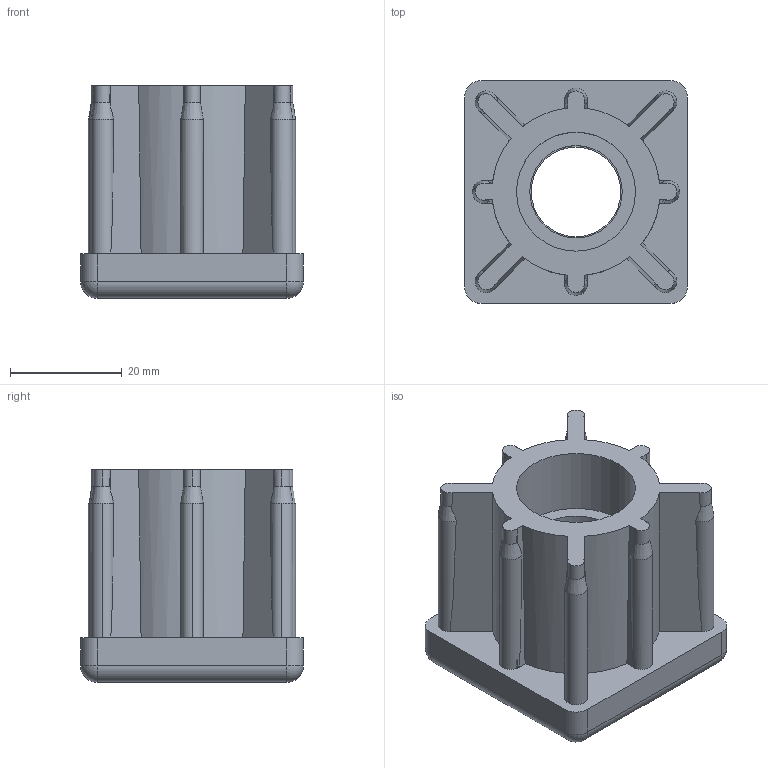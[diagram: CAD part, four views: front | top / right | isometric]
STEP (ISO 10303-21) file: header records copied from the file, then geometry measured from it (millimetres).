
FILE_DESCRIPTION (( 'STEP AP214' ), '1' );
FILE_NAME ('42006840216.STEP', '2020-02-26T10:40:04', ( '' ), ( '' ), 'SwSTEP 2.0', 'SolidWorks 2018', '' );
FILE_SCHEMA (( 'AUTOMOTIVE_DESIGN' ));
Length unit declared in the file: millimetre
Products named in the file (1): 42006840216
Bounding box: 39.8 x 39.8 x 38 mm (x, y, z)
Volume: 29134.5 mm3; surface area: 13444.6 mm2
Topology: 2 solids, 2 shells, 134 faces, 365 edges, 234 vertices
Faces by surface type: cylinder 56, plane 55, cone 19, sphere 4
Entity records: 4540 total; most frequent: CARTESIAN_POINT 1284, ORIENTED_EDGE 722, DIRECTION 653, EDGE_CURVE 361, AXIS2_PLACEMENT_3D 259, VERTEX_POINT 234, EDGE_LOOP 141, LINE 135
